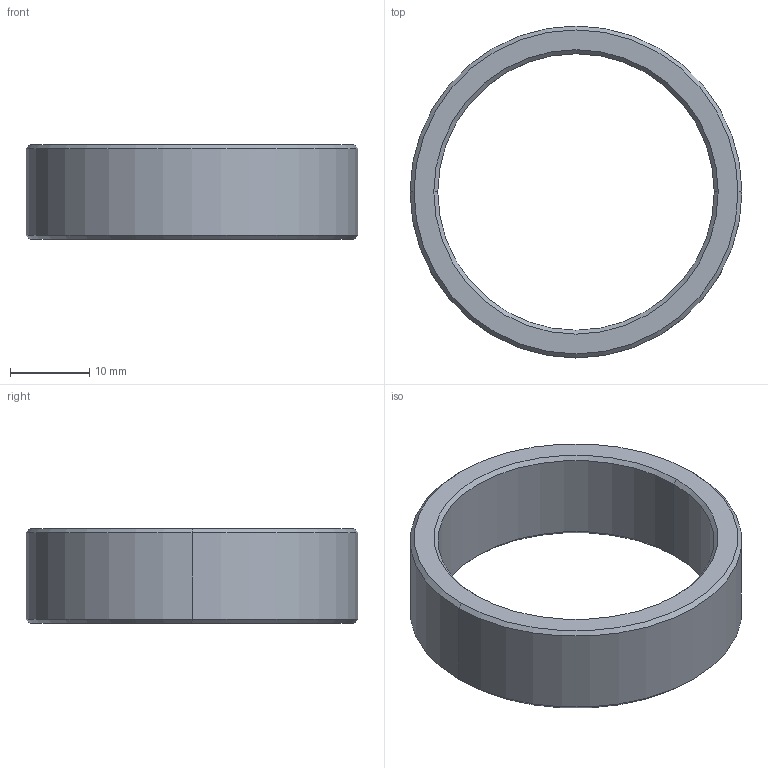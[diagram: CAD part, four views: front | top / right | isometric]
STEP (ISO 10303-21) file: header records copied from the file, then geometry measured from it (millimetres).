
FILE_DESCRIPTION (( 'STEP AP214' ), '1' );
FILE_NAME ('AGZ061.06.02_V1轴承顶套.STEP', '2021-09-24T01:58:27', ( '微软中国' ), ( 'Microsoft' ), 'SwSTEP 2.0', 'SolidWorks 2017', '' );
FILE_SCHEMA (( 'AUTOMOTIVE_DESIGN' ));
Length unit declared in the file: millimetre
Products named in the file (1): AGZ061.06.02_V1粣創階杶
Bounding box: 42 x 42 x 12 mm (x, y, z)
Volume: 5019.5 mm3; surface area: 3607.8 mm2
Topology: 1 solids, 1 shells, 14 faces, 28 edges, 16 vertices
Faces by surface type: cone 8, cylinder 4, plane 2
Entity records: 402 total; most frequent: DIRECTION 74, CARTESIAN_POINT 59, ORIENTED_EDGE 56, AXIS2_PLACEMENT_3D 31, EDGE_CURVE 28, EDGE_LOOP 16, CIRCLE 16, VERTEX_POINT 16
